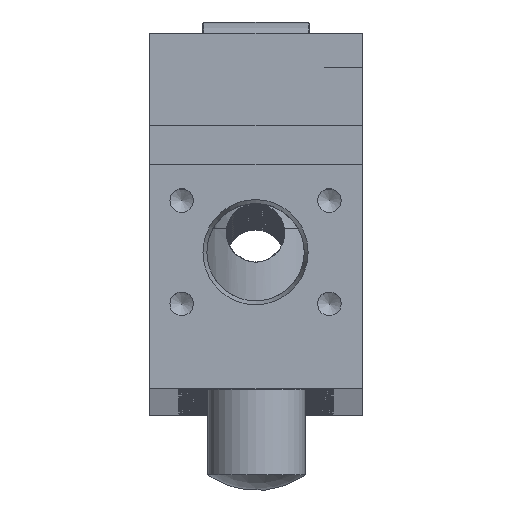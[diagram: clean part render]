
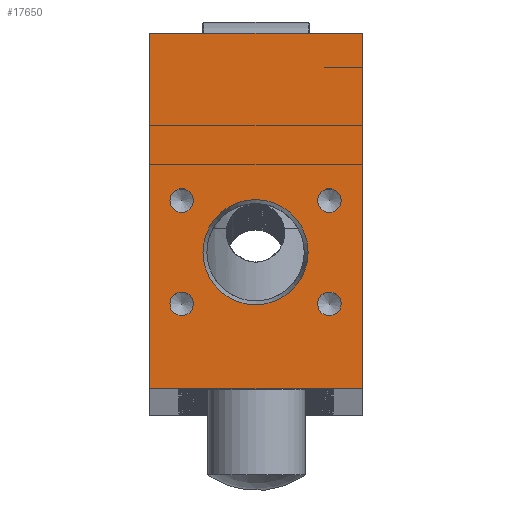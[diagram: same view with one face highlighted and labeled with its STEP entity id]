
A CAD part, top view. The second image highlights one B-rep face of the part: STEP entity #17650.
In plain terms, the highlighted planar face has unit normal (0, 0, 1).
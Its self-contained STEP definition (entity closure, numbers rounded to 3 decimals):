
#790=FACE_BOUND('',#3172,.T.);
#791=FACE_BOUND('',#3173,.T.);
#792=FACE_BOUND('',#3174,.T.);
#793=FACE_BOUND('',#3175,.T.);
#794=FACE_BOUND('',#3176,.T.);
#1096=PLANE('',#19716);
#2097=FACE_OUTER_BOUND('',#3171,.T.);
#3171=EDGE_LOOP('',(#14284,#14285,#14286,#14287));
#3172=EDGE_LOOP('',(#14288,#14289));
#3173=EDGE_LOOP('',(#14290,#14291));
#3174=EDGE_LOOP('',(#14292,#14293));
#3175=EDGE_LOOP('',(#14294,#14295));
#3176=EDGE_LOOP('',(#14296));
#4040=LINE('',#33216,#4752);
#4041=LINE('',#33218,#4753);
#4042=LINE('',#33220,#4754);
#4043=LINE('',#33221,#4755);
#4752=VECTOR('',#24400,10.);
#4753=VECTOR('',#24401,10.);
#4754=VECTOR('',#24402,10.);
#4755=VECTOR('',#24403,10.);
#6017=CIRCLE('',#19717,1.23);
#6018=CIRCLE('',#19718,1.23);
#6019=CIRCLE('',#19719,1.23);
#6020=CIRCLE('',#19720,1.23);
#6021=CIRCLE('',#19721,1.23);
#6022=CIRCLE('',#19722,1.23);
#6023=CIRCLE('',#19723,1.23);
#6024=CIRCLE('',#19724,1.23);
#6025=CIRCLE('',#19725,5.402);
#7677=VERTEX_POINT('',#33214);
#7678=VERTEX_POINT('',#33215);
#7679=VERTEX_POINT('',#33217);
#7680=VERTEX_POINT('',#33219);
#7681=VERTEX_POINT('',#33222);
#7682=VERTEX_POINT('',#33223);
#7683=VERTEX_POINT('',#33226);
#7684=VERTEX_POINT('',#33227);
#7685=VERTEX_POINT('',#33230);
#7686=VERTEX_POINT('',#33231);
#7687=VERTEX_POINT('',#33234);
#7688=VERTEX_POINT('',#33235);
#7689=VERTEX_POINT('',#33238);
#10043=EDGE_CURVE('',#7677,#7678,#4040,.T.);
#10044=EDGE_CURVE('',#7678,#7679,#4041,.T.);
#10045=EDGE_CURVE('',#7679,#7680,#4042,.T.);
#10046=EDGE_CURVE('',#7680,#7677,#4043,.T.);
#10047=EDGE_CURVE('',#7681,#7682,#6017,.T.);
#10048=EDGE_CURVE('',#7682,#7681,#6018,.T.);
#10049=EDGE_CURVE('',#7683,#7684,#6019,.T.);
#10050=EDGE_CURVE('',#7684,#7683,#6020,.T.);
#10051=EDGE_CURVE('',#7685,#7686,#6021,.T.);
#10052=EDGE_CURVE('',#7686,#7685,#6022,.T.);
#10053=EDGE_CURVE('',#7687,#7688,#6023,.T.);
#10054=EDGE_CURVE('',#7688,#7687,#6024,.T.);
#10055=EDGE_CURVE('',#7689,#7689,#6025,.T.);
#14284=ORIENTED_EDGE('',*,*,#10043,.T.);
#14285=ORIENTED_EDGE('',*,*,#10044,.T.);
#14286=ORIENTED_EDGE('',*,*,#10045,.T.);
#14287=ORIENTED_EDGE('',*,*,#10046,.T.);
#14288=ORIENTED_EDGE('',*,*,#10047,.T.);
#14289=ORIENTED_EDGE('',*,*,#10048,.T.);
#14290=ORIENTED_EDGE('',*,*,#10049,.T.);
#14291=ORIENTED_EDGE('',*,*,#10050,.T.);
#14292=ORIENTED_EDGE('',*,*,#10051,.T.);
#14293=ORIENTED_EDGE('',*,*,#10052,.T.);
#14294=ORIENTED_EDGE('',*,*,#10053,.T.);
#14295=ORIENTED_EDGE('',*,*,#10054,.T.);
#14296=ORIENTED_EDGE('',*,*,#10055,.F.);
#17650=ADVANCED_FACE('',(#2097,#790,#791,#792,#793,#794),#1096,.T.);
#19716=AXIS2_PLACEMENT_3D('',#33213,#24398,#24399);
#19717=AXIS2_PLACEMENT_3D('',#33224,#24404,#24405);
#19718=AXIS2_PLACEMENT_3D('',#33225,#24406,#24407);
#19719=AXIS2_PLACEMENT_3D('',#33228,#24408,#24409);
#19720=AXIS2_PLACEMENT_3D('',#33229,#24410,#24411);
#19721=AXIS2_PLACEMENT_3D('',#33232,#24412,#24413);
#19722=AXIS2_PLACEMENT_3D('',#33233,#24414,#24415);
#19723=AXIS2_PLACEMENT_3D('',#33236,#24416,#24417);
#19724=AXIS2_PLACEMENT_3D('',#33237,#24418,#24419);
#19725=AXIS2_PLACEMENT_3D('',#33239,#24420,#24421);
#24398=DIRECTION('center_axis',(0.,0.,1.));
#24399=DIRECTION('ref_axis',(1.,0.,0.));
#24400=DIRECTION('',(-1.,0.,0.));
#24401=DIRECTION('',(0.,-1.,0.));
#24402=DIRECTION('',(1.,0.,0.));
#24403=DIRECTION('',(0.,1.,0.));
#24404=DIRECTION('center_axis',(0.,0.,-1.));
#24405=DIRECTION('ref_axis',(1.,0.,0.));
#24406=DIRECTION('center_axis',(0.,0.,-1.));
#24407=DIRECTION('ref_axis',(1.,0.,0.));
#24408=DIRECTION('center_axis',(0.,0.,-1.));
#24409=DIRECTION('ref_axis',(1.,0.,0.));
#24410=DIRECTION('center_axis',(0.,0.,-1.));
#24411=DIRECTION('ref_axis',(1.,0.,0.));
#24412=DIRECTION('center_axis',(0.,0.,-1.));
#24413=DIRECTION('ref_axis',(1.,0.,0.));
#24414=DIRECTION('center_axis',(0.,0.,-1.));
#24415=DIRECTION('ref_axis',(1.,0.,0.));
#24416=DIRECTION('center_axis',(0.,0.,-1.));
#24417=DIRECTION('ref_axis',(1.,0.,0.));
#24418=DIRECTION('center_axis',(0.,0.,-1.));
#24419=DIRECTION('ref_axis',(1.,0.,0.));
#24420=DIRECTION('center_axis',(0.,0.,1.));
#24421=DIRECTION('ref_axis',(-1.,0.,0.));
#33213=CARTESIAN_POINT('Origin',(0.,0.893,
380.));
#33214=CARTESIAN_POINT('',(10.9,18.25,380.));
#33215=CARTESIAN_POINT('',(-10.9,18.25,380.));
#33216=CARTESIAN_POINT('',(10.9,18.25,380.));
#33217=CARTESIAN_POINT('',(-10.9,-18.25,380.));
#33218=CARTESIAN_POINT('',(-10.9,18.25,380.));
#33219=CARTESIAN_POINT('',(10.9,-18.25,380.));
#33220=CARTESIAN_POINT('',(-10.9,-18.25,380.));
#33221=CARTESIAN_POINT('',(10.9,-18.25,380.));
#33222=CARTESIAN_POINT('',(8.757,-9.556,380.));
#33223=CARTESIAN_POINT('',(6.298,-9.556,380.));
#33224=CARTESIAN_POINT('Origin',(7.527,-9.556,380.));
#33225=CARTESIAN_POINT('Origin',(7.527,-9.556,380.));
#33226=CARTESIAN_POINT('',(-6.398,1.056,380.));
#33227=CARTESIAN_POINT('',(-8.857,1.056,380.));
#33228=CARTESIAN_POINT('Origin',(-7.627,1.056,380.));
#33229=CARTESIAN_POINT('Origin',(-7.627,1.056,380.));
#33230=CARTESIAN_POINT('',(8.757,1.056,380.));
#33231=CARTESIAN_POINT('',(6.298,1.056,380.));
#33232=CARTESIAN_POINT('Origin',(7.527,1.056,380.));
#33233=CARTESIAN_POINT('Origin',(7.527,1.056,380.));
#33234=CARTESIAN_POINT('',(-6.398,-9.556,380.));
#33235=CARTESIAN_POINT('',(-8.857,-9.556,380.));
#33236=CARTESIAN_POINT('Origin',(-7.627,-9.556,380.));
#33237=CARTESIAN_POINT('Origin',(-7.627,-9.556,380.));
#33238=CARTESIAN_POINT('',(5.352,-4.25,380.));
#33239=CARTESIAN_POINT('Origin',(-0.05,-4.25,380.));
